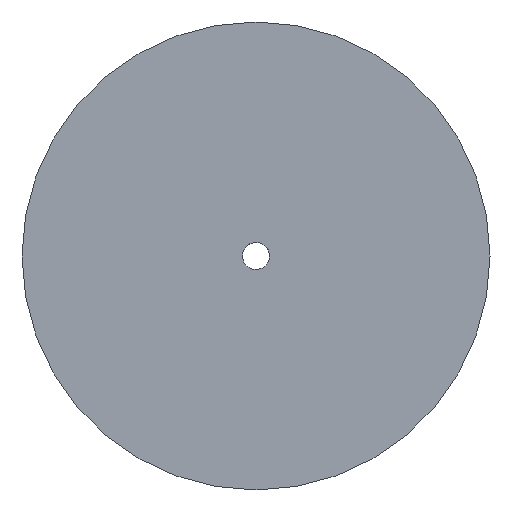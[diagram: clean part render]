
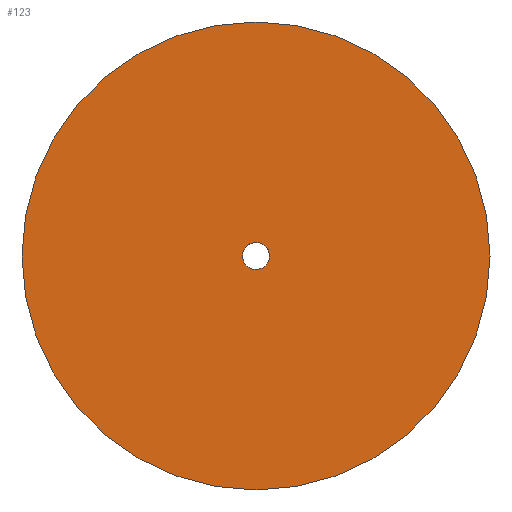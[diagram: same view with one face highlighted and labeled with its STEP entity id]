
A CAD part, top view. The second image highlights one B-rep face of the part: STEP entity #123.
In plain terms, the highlighted planar face has unit normal (0, 0, 1).
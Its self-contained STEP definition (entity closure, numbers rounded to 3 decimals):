
#62=CARTESIAN_POINT('Vertex',(-2.852,1.558,0.)) ;
#76=CARTESIAN_POINT('Vertex',(2.852,-1.558,0.)) ;
#79=CARTESIAN_POINT('Axis2P3D Location',(0.,0.,0.)) ;
#91=CARTESIAN_POINT('Axis2P3D Location',(0.,0.,0.)) ;
#96=CARTESIAN_POINT('Axis2P3D Location',(0.,0.,0.)) ;
#100=CARTESIAN_POINT('Vertex',(56.,0.,0.)) ;
#102=CARTESIAN_POINT('Vertex',(-56.,0.,0.)) ;
#105=CARTESIAN_POINT('Axis2P3D Location',(0.,0.,0.)) ;
#114=CARTESIAN_POINT('Axis2P3D Location',(0.,0.,0.)) ;
#80=DIRECTION('Axis2P3D Direction',(0.,-0.,-1.)) ;
#92=DIRECTION('Axis2P3D Direction',(0.,0.,1.)) ;
#93=DIRECTION('Axis2P3D XDirection',(1.,0.,0.)) ;
#97=DIRECTION('Axis2P3D Direction',(0.,0.,1.)) ;
#106=DIRECTION('Axis2P3D Direction',(0.,0.,1.)) ;
#115=DIRECTION('Axis2P3D Direction',(0.,0.,1.)) ;
#81=AXIS2_PLACEMENT_3D('Circle Axis2P3D',#79,#80,$) ;
#94=AXIS2_PLACEMENT_3D('Plane Axis2P3D',#91,#92,#93) ;
#98=AXIS2_PLACEMENT_3D('Circle Axis2P3D',#96,#97,$) ;
#107=AXIS2_PLACEMENT_3D('Circle Axis2P3D',#105,#106,$) ;
#116=AXIS2_PLACEMENT_3D('Circle Axis2P3D',#114,#115,$) ;
#111=ORIENTED_EDGE('',*,*,#104,.F.) ;
#112=ORIENTED_EDGE('',*,*,#109,.F.) ;
#120=ORIENTED_EDGE('',*,*,#118,.F.) ;
#121=ORIENTED_EDGE('',*,*,#83,.F.) ;
#122=FACE_BOUND('',#119,.T.) ;
#123=ADVANCED_FACE('PartBody',(#113,#122),#95,.T.) ;
#82=CIRCLE('generated circle',#81,3.25) ;
#99=CIRCLE('generated circle',#98,56.) ;
#108=CIRCLE('generated circle',#107,56.) ;
#117=CIRCLE('generated circle',#116,3.25) ;
#83=EDGE_CURVE('',#77,#63,#82,.F.) ;
#104=EDGE_CURVE('',#101,#103,#99,.F.) ;
#109=EDGE_CURVE('',#103,#101,#108,.F.) ;
#118=EDGE_CURVE('',#63,#77,#117,.T.) ;
#110=EDGE_LOOP('',(#111,#112)) ;
#119=EDGE_LOOP('',(#120,#121)) ;
#113=FACE_OUTER_BOUND('',#110,.T.) ;
#95=PLANE('',#94) ;
#63=VERTEX_POINT('',#62) ;
#77=VERTEX_POINT('',#76) ;
#101=VERTEX_POINT('',#100) ;
#103=VERTEX_POINT('',#102) ;
